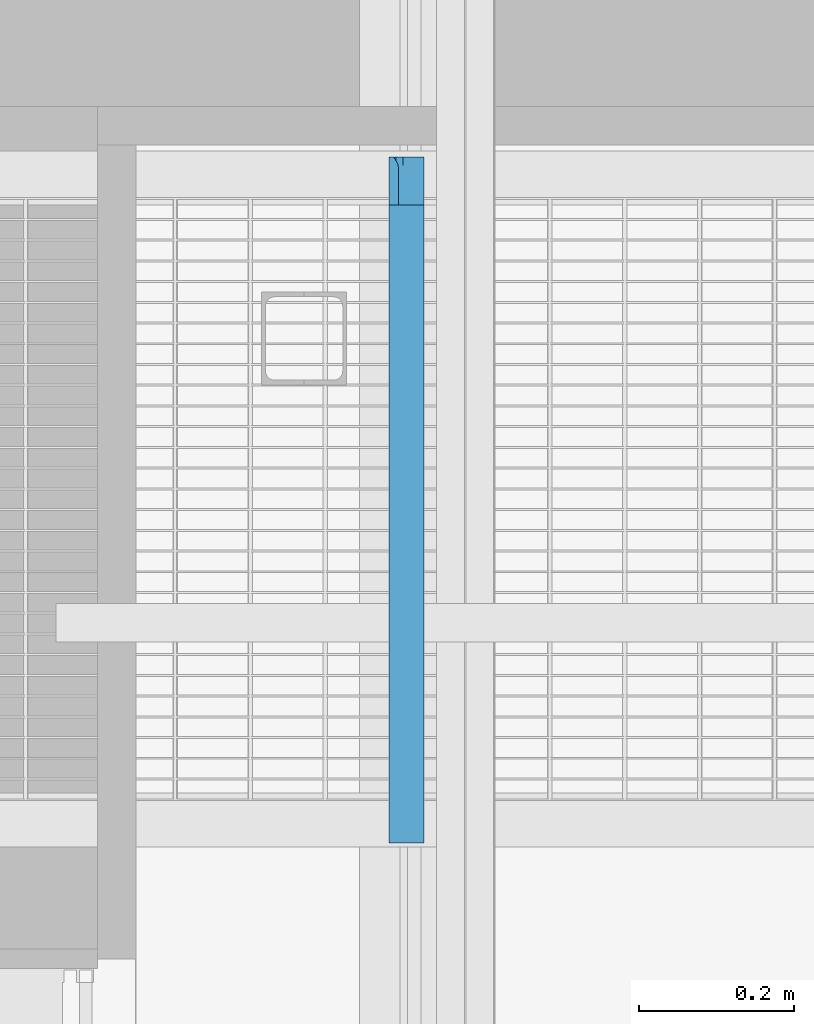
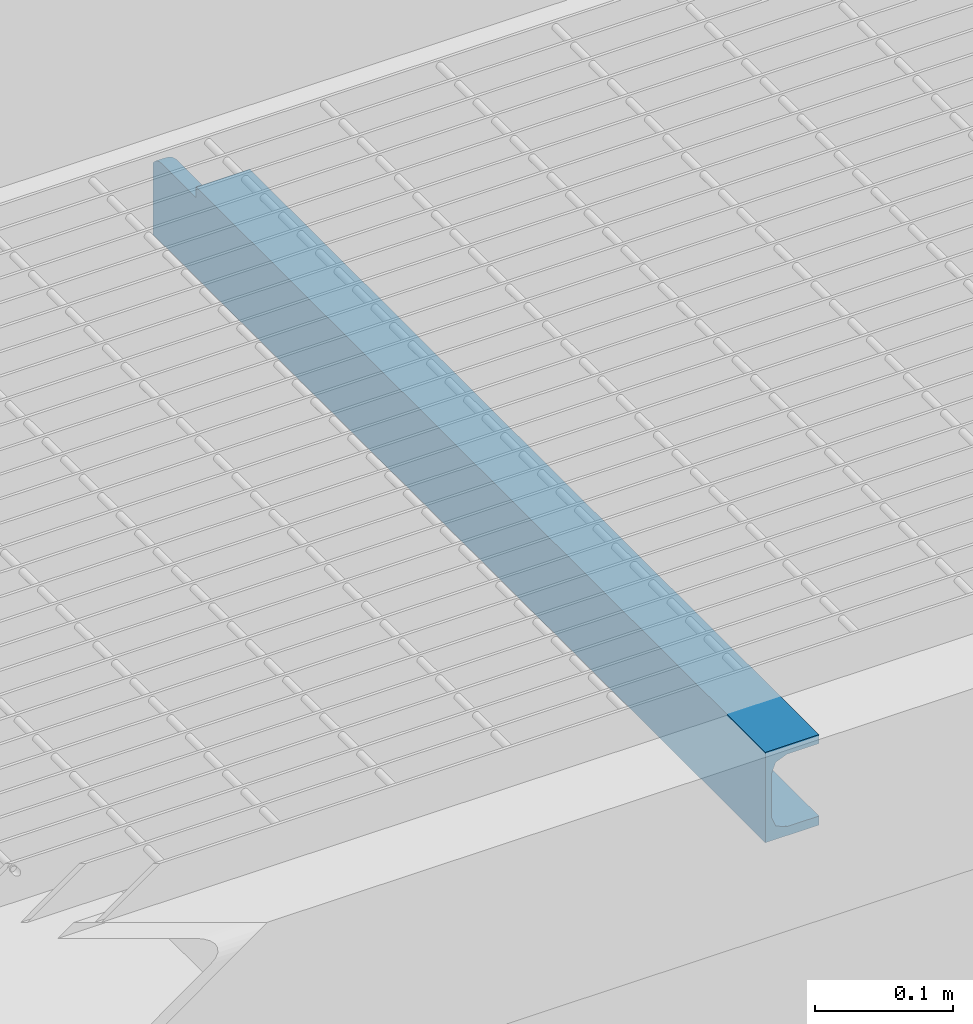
# One storey, part 46 of 75: 1 beam.
"""IFC2X3 building model written with IfcOpenShell, lengths in metres."""

from ifc_helpers import new_model, entity, si_unit, converted_unit, derived_unit, direction, frame, origin, place, context, subcontext, project, spatial, faceted_brep, material, type_object, element, save


model = new_model("IFC2X3")

# Units and contexts
model_context = context("Model", 3, precision=1e-05, world=origin(), true_north=direction((6.12303176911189e-17, 1.0)))
body_context = subcontext(model_context, "Body", "Model", "MODEL_VIEW")
ifc_project = project(units=[si_unit("LENGTHUNIT", "METRE"), si_unit("AREAUNIT", "SQUARE_METRE"), si_unit("VOLUMEUNIT", "CUBIC_METRE"), converted_unit("PLANEANGLEUNIT", "DEGREE", entity("IfcRatioMeasure", 0.0174532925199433), si_unit("PLANEANGLEUNIT", "RADIAN"), dimensions=[0, 0, 0, 0, 0, 0, 0]), si_unit("MASSUNIT", "GRAM", prefix="KILO"), derived_unit("MASSDENSITYUNIT", [(si_unit("MASSUNIT", "GRAM", prefix="KILO"), 1), (si_unit("LENGTHUNIT", "METRE"), -3)]), derived_unit("MOMENTOFINERTIAUNIT", [(si_unit("LENGTHUNIT", "METRE"), 4)]), si_unit("TIMEUNIT", "SECOND"), si_unit("FREQUENCYUNIT", "HERTZ"), si_unit("THERMODYNAMICTEMPERATUREUNIT", "DEGREE_CELSIUS"), derived_unit("THERMALTRANSMITTANCEUNIT", [(si_unit("MASSUNIT", "GRAM", prefix="KILO"), 1), (si_unit("THERMODYNAMICTEMPERATUREUNIT", "KELVIN"), -1), (si_unit("TIMEUNIT", "SECOND"), -3)]), derived_unit("VOLUMETRICFLOWRATEUNIT", [(si_unit("LENGTHUNIT", "METRE"), 3), (si_unit("TIMEUNIT", "SECOND"), -1)]), si_unit("ELECTRICCURRENTUNIT", "AMPERE"), si_unit("ELECTRICVOLTAGEUNIT", "VOLT"), si_unit("POWERUNIT", "WATT"), si_unit("FORCEUNIT", "NEWTON", prefix="KILO"), si_unit("ILLUMINANCEUNIT", "LUX"), si_unit("LUMINOUSFLUXUNIT", "LUMEN"), si_unit("LUMINOUSINTENSITYUNIT", "CANDELA"), derived_unit("USERDEFINED", [(si_unit("MASSUNIT", "GRAM", prefix="KILO"), -1), (si_unit("LENGTHUNIT", "METRE"), -2), (si_unit("TIMEUNIT", "SECOND"), 3), (si_unit("LUMINOUSFLUXUNIT", "LUMEN"), 1)]), derived_unit("LINEARVELOCITYUNIT", [(si_unit("LENGTHUNIT", "METRE"), 1), (si_unit("TIMEUNIT", "SECOND"), -1)]), si_unit("PRESSUREUNIT", "PASCAL"), derived_unit("USERDEFINED", [(si_unit("LENGTHUNIT", "METRE"), -2), (si_unit("MASSUNIT", "GRAM", prefix="KILO"), 1), (si_unit("TIMEUNIT", "SECOND"), -2)]), derived_unit("LINEARFORCEUNIT", [(si_unit("MASSUNIT", "GRAM", prefix="KILO"), 1), (si_unit("LENGTHUNIT", "METRE"), 1), (si_unit("TIMEUNIT", "SECOND"), -2), (si_unit("LENGTHUNIT", "METRE"), -1)]), derived_unit("PLANARFORCEUNIT", [(si_unit("MASSUNIT", "GRAM", prefix="KILO"), 1), (si_unit("LENGTHUNIT", "METRE"), 1), (si_unit("TIMEUNIT", "SECOND"), -2), (si_unit("LENGTHUNIT", "METRE"), -2)])], contexts=[model_context])

# Site, building, storey
site_placement = place(None, origin())
site = spatial("IfcSite", under=ifc_project, at=site_placement, Name="Superficie", CompositionType="ELEMENT")
building_placement = place(site_placement, origin())
building = spatial("IfcBuilding", under=site, at=building_placement, Name="Telegestiones", CompositionType="ELEMENT")
storey_placement = place(building_placement, origin())
storey = spatial("IfcBuildingStorey", under=building, at=storey_placement, Name="Nivel 0_NPT", CompositionType="ELEMENT", Elevation=0.0)

# Beam
ifc_material = material(Name="Metal - Acero - 345 MPa")
beam_type = type_object("IfcBeamType", Name="U-Canales de ala paralela:UAP80", PredefinedType="NOTDEFINED")
beam_placement = place(storey_placement, frame((6.41178977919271, 12.7911759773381, 17.78), z_axis=(0.0, 0.0, 1.0), x_axis=(0.0, -1.0, 0.0)))
element("IfcBeam", 1, at=beam_placement, inside=storey, type_object=beam_type, material=ifc_material, Name="U-Canales de ala paralela:UAP80", ObjectType="U-Canales de ala paralela:UAP80", context=body_context, shape_type="Brep", body=[
    faceted_brep([(0.0, 0.0450000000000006, 0.0), (0.0, 0.0450000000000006, 0.00799999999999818), (0.0, 0.0180000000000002, 0.00799999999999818), (0.0, 0.0140667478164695, 0.00962920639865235), (0.0, 0.0114371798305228, 0.0107184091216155), (0.0, 0.00880761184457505, 0.0118076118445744), (0.0, 0.00785570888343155, 0.014105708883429), (0.0, 0.00690380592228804, 0.0164038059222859), (0.0, 0.00595190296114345, 0.0187019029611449), (0.0, 0.00499999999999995, 0.0209999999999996), (0.0, 0.00499999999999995, 0.0555000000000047), (0.0, 0.00499999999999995, 0.0589999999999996), (0.0, 0.00662920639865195, 0.0629332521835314), (0.0, 0.00771840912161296, 0.0655628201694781), (0.0, 0.00880761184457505, 0.0681923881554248), (0.0, 0.0114371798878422, 0.0692815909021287), (0.0, 0.0140667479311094, 0.0703707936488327), (0.0, 0.0180000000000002, 0.0719999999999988), (0.0, 0.0450000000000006, 0.0719999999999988), (0.0, 0.0450000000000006, 0.0799999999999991), (0.0, 0.0, 0.0799999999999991), (0.0, 0.0, 0.0555000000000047), (0.0, 0.0, 0.0), (-0.887000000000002, 0.0180000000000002, 0.00799999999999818), (-0.887000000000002, 0.0450000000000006, 0.00799999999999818), (-0.887000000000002, 0.0450000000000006, 0.0), (-0.887000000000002, 0.0, 0.0), (-0.887000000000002, 0.0, 0.0636869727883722), (-0.887000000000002, 0.00587431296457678, 0.0636869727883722), (-0.887000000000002, 0.00524819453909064, 0.061528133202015), (-0.887000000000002, 0.00499999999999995, 0.0589999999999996), (-0.887000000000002, 0.00499999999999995, 0.0209999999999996), (-0.887000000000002, 0.00581460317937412, 0.0190333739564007), (-0.887000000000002, 0.00690380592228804, 0.0164038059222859), (-0.887000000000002, 0.00785570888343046, 0.014105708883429), (-0.887000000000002, 0.00880761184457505, 0.0118076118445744), (-0.887000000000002, 0.0111057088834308, 0.0108557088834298), (-0.887000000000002, 0.0134038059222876, 0.00990380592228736), (-0.887000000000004, 0.0157019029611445, 0.00895190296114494), (-0.0645312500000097, 0.0, 0.0799999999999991), (-0.0645312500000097, 0.0450000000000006, 0.0799999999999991), (-0.824931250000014, 0.0450000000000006, 0.0799999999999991), (-0.824931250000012, 0.0, 0.0799999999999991), (-0.0645312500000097, 0.0450000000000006, 0.0719999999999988), (-0.824931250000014, 0.0450000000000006, 0.0719999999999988), (-0.0645312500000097, 0.0180000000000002, 0.0719999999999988), (-0.192940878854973, 0.0180000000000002, 0.0719999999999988), (-0.321350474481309, 0.0180000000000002, 0.0719999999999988), (-0.447245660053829, 0.0180000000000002, 0.0719999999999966), (-0.5101932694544, 0.0180000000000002, 0.0719999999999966), (-0.573140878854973, 0.0180000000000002, 0.0719999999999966), (-0.699036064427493, 0.0180000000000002, 0.0719999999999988), (-0.761983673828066, 0.0180000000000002, 0.0719999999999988), (-0.824931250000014, 0.0180000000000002, 0.0719999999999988), (-0.479512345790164, 0.00636885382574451, 0.0648065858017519), (-0.543145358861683, 0.00725710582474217, 0.0663205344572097), (-0.425623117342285, 0.00746482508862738, 0.0666164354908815), (-0.192463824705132, 0.00699071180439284, 0.0659134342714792), (-0.0837067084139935, 0.00674978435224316, 0.0655140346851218), (-0.144060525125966, 0.0055087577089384, 0.0626012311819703), (-0.124159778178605, 0.00935724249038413, 0.0687109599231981), (-0.783815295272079, 0.00551450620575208, 0.0626211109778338), (-0.761104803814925, 0.00500000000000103, 0.0589999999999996), (-0.478719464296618, 0.0155013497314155, 0.0717576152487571), (-0.30621522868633, 0.00724023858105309, 0.0662957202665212), (-0.218561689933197, 0.00593779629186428, 0.0638480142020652), (-0.277783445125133, 0.00548411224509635, 0.0625146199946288), (-0.00044529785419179, 0.00499999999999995, 0.0589999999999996), (-0.507528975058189, 0.0130605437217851, 0.0710250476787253), (-0.638065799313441, 0.0103189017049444, 0.0694881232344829), (-0.584995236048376, 0.0142291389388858, 0.0714410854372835), (-0.748284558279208, 0.0066348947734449, 0.0653114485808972), (-0.670614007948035, 0.00553193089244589, 0.062680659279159), (-0.528827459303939, 0.00982895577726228, 0.0691110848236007), (-0.402538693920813, 0.0116313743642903, 0.0703331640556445), (-0.412608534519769, 0.00932801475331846, 0.0686848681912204), (-0.100272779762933, 0.0146443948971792, 0.071559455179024), (-0.884592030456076, 0.00740601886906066, 0.0665344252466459), (-0.881687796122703, 0.00926484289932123, 0.0686279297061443), (-0.794309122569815, 0.00820573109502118, 0.0675482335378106), (-0.815073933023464, 0.00990265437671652, 0.0691702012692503), (-0.114157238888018, 0.0118421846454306, 0.070449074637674), (-0.824829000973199, 0.00652556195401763, 0.0651104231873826), (-0.824931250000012, 0.0119378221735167, 0.0705000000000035), (-0.824931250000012, 0.0148775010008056, 0.0716194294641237), (-0.752090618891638, 0.0133736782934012, 0.0711489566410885), (-0.878331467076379, 0.0110465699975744, 0.0699840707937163), (-0.666241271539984, 0.0133736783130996, 0.0711489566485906), (-0.742436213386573, 0.0103479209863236, 0.0695093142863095), (-0.874431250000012, 0.0119378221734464, 0.0704999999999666), (-0.73050985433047, 0.0157137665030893, 0.0717973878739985), (-0.655023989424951, 0.0158751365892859, 0.0718251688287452), (-0.635209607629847, 0.00499999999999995, 0.0589999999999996), (-0.282764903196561, 0.0147287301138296, 0.0715816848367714), (-0.21132374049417, 0.0154946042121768, 0.0717562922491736), (-0.192940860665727, 0.0130831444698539, 0.0710343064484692), (-0.696715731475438, 0.00812615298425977, 0.0674561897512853), (-0.191932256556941, 0.00499999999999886, 0.0589999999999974), (-0.210300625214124, 0.00523827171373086, 0.0614775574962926), (-0.384298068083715, 0.0141896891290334, 0.0714290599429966), (-0.066483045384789, 0.00527361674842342, 0.061653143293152), (-0.193254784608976, 0.00859744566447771, 0.0679773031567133), (-0.66644382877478, 0.00662422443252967, 0.0652921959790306), (-0.617784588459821, 0.00784690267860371, 0.0671187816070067), (-0.572262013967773, 0.00529765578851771, 0.0617659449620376), (-0.50931441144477, 0.00499999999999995, 0.0589999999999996), (-0.287675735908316, 0.00499999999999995, 0.0589999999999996), (-0.474230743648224, 0.0053927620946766, 0.0621713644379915), (-0.549670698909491, 0.0060360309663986, 0.0640856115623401), (-0.399828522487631, 0.00612884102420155, 0.0642986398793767), (-0.396306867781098, 0.00528181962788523, 0.0616921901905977), (-0.333093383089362, 0.00894027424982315, 0.0683231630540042), (-0.320305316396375, 0.0117909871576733, 0.0704213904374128), (-0.0961887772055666, 0.00499999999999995, 0.0589999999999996), (-0.25671456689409, 0.00963193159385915, 0.068948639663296), (-0.186713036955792, 0.0106785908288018, 0.0697422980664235), (-0.249026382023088, 0.0117043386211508, 0.0703738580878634), (-0.383419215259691, 0.00499999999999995, 0.0589999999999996), (-0.125895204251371, 0.00499999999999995, 0.0209999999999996), (-0.251790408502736, 0.00499999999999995, 0.0209999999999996), (-0.347645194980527, 0.00499999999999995, 0.0209999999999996), (-0.44349998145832, 0.00499999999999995, 0.0209999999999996), (-0.554374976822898, 0.00499999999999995, 0.0209999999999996), (-0.665249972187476, 0.00499999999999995, 0.0209999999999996), (-0.761104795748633, 0.00499999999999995, 0.0209999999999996), (-0.0734619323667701, 0.00989600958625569, 0.0108350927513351), (-0.0788186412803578, 0.0126584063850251, 0.0091481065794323), (-0.299717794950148, 0.00537286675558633, 0.0179088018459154), (-0.637237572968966, 0.00532415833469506, 0.0181150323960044), (-0.713177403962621, 0.00576394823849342, 0.0166092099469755), (-0.444311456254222, 0.0123107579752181, 0.00931100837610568), (-0.315945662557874, 0.0113863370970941, 0.00980806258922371), (-0.335491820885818, 0.014732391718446, 0.00841736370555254), (-0.518650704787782, 0.0143274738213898, 0.00852953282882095), (-0.509314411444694, 0.0180000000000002, 0.00800000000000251), (-0.594527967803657, 0.0154908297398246, 0.00824444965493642), (-0.43889775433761, 0.00999407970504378, 0.0107576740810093), (-0.409636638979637, 0.00815277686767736, 0.0125128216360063), (-0.704157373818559, 0.0111320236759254, 0.00996229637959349), (-0.602762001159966, 0.0127505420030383, 0.00910701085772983), (-0.698157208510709, 0.0147601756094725, 0.00841018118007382), (-0.450193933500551, 0.00550211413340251, 0.0174218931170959), (-0.419728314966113, 0.00670067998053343, 0.0145715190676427), (-0.347645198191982, 0.00647007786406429, 0.0149949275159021), (-0.800011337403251, 0.0147677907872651, 0.0084082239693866), (-0.761104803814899, 0.0180000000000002, 0.00800000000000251), (-0.112149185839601, 0.00536096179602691, 0.017957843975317), (-0.201607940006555, 0.00532915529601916, 0.0180931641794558), (-0.0734515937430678, 0.0154674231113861, 0.00824907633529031), (-0.158802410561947, 0.0144776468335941, 0.00848628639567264), (-0.195273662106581, 0.00812471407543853, 0.0125454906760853), (-0.151425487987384, 0.00629995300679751, 0.0153335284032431), (-0.0937230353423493, 0.00786156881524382, 0.0128629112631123), (-0.300125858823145, 0.00845069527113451, 0.0121789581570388), (-0.248618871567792, 0.0134751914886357, 0.0088128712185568), (-0.249535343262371, 0.0063837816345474, 0.0151636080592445), (-0.287564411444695, 0.0180000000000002, 0.00800000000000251), (-0.383419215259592, 0.0180000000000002, 0.00800000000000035), (-0.125895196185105, 0.0180000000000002, 0.00800000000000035), (-0.191709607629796, 0.0180000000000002, 0.00799999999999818), (-0.232159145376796, 0.0108807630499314, 0.0101226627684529), (-0.146923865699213, 0.0110865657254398, 0.00999071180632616), (-0.271701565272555, 0.0156653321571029, 0.00821135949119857), (-0.425295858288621, 0.0152197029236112, 0.00830078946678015), (-0.526087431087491, 0.0116362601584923, 0.00966409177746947), (-0.697294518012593, 0.00813782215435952, 0.0125302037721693), (-0.612759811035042, 0.00967715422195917, 0.0110134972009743), (-0.635209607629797, 0.0180000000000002, 0.00800000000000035), (-0.554375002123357, 0.00560357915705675, 0.0170848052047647), (-0.492870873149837, 0.00680969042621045, 0.0143835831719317), (-0.800231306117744, 0.0116351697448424, 0.00966470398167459), (-0.795198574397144, 0.00701450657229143, 0.0140488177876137), (-0.764347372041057, 0.00943661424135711, 0.0112189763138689), (-0.803520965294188, 0.00550758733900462, 0.017402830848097), (-0.596627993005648, 0.0071362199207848, 0.0138600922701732), (-0.643905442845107, 0.00615345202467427, 0.0156465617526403), (-0.701431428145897, 0.00675652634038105, 0.0144743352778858), (-0.509314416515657, 0.00905086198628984, 0.0115706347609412), (-0.377241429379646, 0.00524948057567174, 0.0184653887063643), (-0.0760148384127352, 0.00611015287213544, 0.0157434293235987), (-0.824931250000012, 0.0, 0.0705000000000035), (-0.874431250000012, 0.0, 0.0705000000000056), (-0.878118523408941, 0.0, 0.0700397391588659), (-0.881579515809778, 0.0, 0.0686872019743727), (-0.884601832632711, 0.0, 0.066525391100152)], [[[0, 1, 2, 3, 4, 5, 6, 7, 8, 9, 10, 11, 12, 13, 14, 15, 16, 17, 18, 19, 20, 21, 22]], [[23, 24, 25, 26, 27, 28, 29, 30, 31, 32, 33, 34, 35, 36, 37, 38]], [[39, 20, 19, 40, 41, 42]], [[40, 19, 18, 43, 44, 41]], [[24, 1, 0, 25]], [[43, 18, 17, 45, 46, 47, 48, 49, 50, 51, 52, 53, 44]], [[54, 55, 56]], [[57, 58, 59]], [[60, 58, 57]], [[29, 61, 62]], [[49, 48, 63, 50]], [[64, 65, 66]], [[45, 17, 16]], [[29, 28, 61]], [[12, 11, 67]], [[68, 69, 70]], [[71, 72, 61]], [[73, 74, 75]], [[45, 16, 76]], [[77, 78, 79]], [[79, 78, 80]], [[15, 81, 16]], [[82, 71, 61]], [[83, 84, 85]], [[62, 30, 29]], [[78, 86, 80]], [[87, 69, 88]], [[89, 83, 86]], [[90, 51, 91]], [[80, 83, 88]], [[92, 62, 72]], [[93, 94, 95]], [[79, 96, 71]], [[51, 90, 52]], [[97, 98, 59]], [[47, 93, 99]], [[12, 67, 100]], [[60, 57, 101]], [[101, 57, 64]], [[82, 28, 77]], [[88, 96, 79]], [[96, 88, 69]], [[53, 52, 84]], [[87, 88, 85]], [[102, 96, 103]], [[68, 73, 69]], [[72, 71, 102]], [[90, 91, 87]], [[47, 99, 48]], [[91, 50, 70]], [[104, 105, 92]], [[98, 106, 66]], [[83, 85, 88]], [[85, 84, 90]], [[77, 79, 82]], [[72, 62, 61]], [[54, 107, 108]], [[96, 102, 71]], [[109, 110, 107]], [[72, 104, 92]], [[52, 90, 84]], [[85, 90, 87]], [[87, 91, 70]], [[91, 51, 50]], [[87, 70, 69]], [[75, 74, 111]], [[68, 70, 63]], [[111, 74, 112]], [[48, 99, 63]], [[50, 63, 70]], [[68, 63, 99]], [[59, 100, 113]], [[97, 59, 113]], [[58, 100, 59]], [[65, 98, 66]], [[110, 109, 66]], [[13, 12, 58, 14]], [[14, 58, 60]], [[81, 76, 16]], [[101, 114, 115]], [[116, 112, 93]], [[111, 64, 56]], [[104, 72, 108]], [[103, 108, 102]], [[55, 103, 73]], [[103, 96, 69]], [[105, 104, 107]], [[72, 102, 108]], [[105, 107, 117]], [[109, 107, 54]], [[114, 64, 111]], [[109, 64, 66]], [[28, 82, 61]], [[71, 82, 79]], [[109, 54, 56]], [[55, 54, 108]], [[109, 56, 64]], [[73, 75, 56]], [[103, 55, 108]], [[104, 108, 107]], [[99, 93, 112]], [[74, 99, 112]], [[94, 46, 76]], [[94, 93, 47]], [[116, 115, 114]], [[74, 68, 99]], [[68, 74, 73]], [[110, 117, 107]], [[60, 101, 115]], [[45, 76, 46]], [[15, 14, 60]], [[95, 76, 81]], [[95, 81, 115]], [[60, 81, 15]], [[79, 80, 88]], [[83, 80, 86]], [[69, 73, 103]], [[56, 55, 73]], [[113, 100, 67]], [[12, 100, 58]], [[57, 59, 65]], [[66, 106, 110]], [[98, 65, 59]], [[57, 65, 64]], [[117, 110, 106]], [[106, 98, 97]], [[114, 101, 64]], [[60, 115, 81]], [[116, 95, 115]], [[95, 116, 93]], [[112, 116, 114]], [[114, 111, 112]], [[75, 111, 56]], [[95, 94, 76]], [[46, 94, 47]], [[67, 11, 10, 9, 118, 119, 120, 121, 122, 123, 124, 31, 30, 62, 92, 105, 117, 106, 97, 113]], [[125, 4, 126]], [[119, 127, 120]], [[128, 129, 123]], [[130, 131, 132]], [[133, 134, 135]], [[136, 137, 131]], [[138, 139, 140]], [[121, 141, 122]], [[137, 142, 143]], [[23, 144, 145]], [[9, 146, 118]], [[119, 147, 127]], [[148, 149, 126]], [[150, 151, 152]], [[137, 143, 153]], [[146, 147, 118]], [[154, 132, 131]], [[151, 150, 155]], [[148, 3, 2]], [[156, 157, 132]], [[158, 149, 148]], [[149, 158, 159]], [[154, 160, 161]], [[159, 162, 149]], [[149, 162, 154]], [[163, 133, 130]], [[133, 139, 164]], [[132, 163, 130]], [[157, 163, 132]], [[165, 166, 138]], [[145, 140, 167]], [[168, 141, 169]], [[123, 129, 124]], [[144, 37, 170]], [[135, 167, 140]], [[171, 172, 35]], [[124, 173, 32]], [[33, 173, 171]], [[32, 173, 33]], [[174, 166, 165]], [[175, 174, 176]], [[169, 174, 168]], [[138, 166, 139]], [[140, 145, 144]], [[170, 172, 138]], [[140, 144, 170]], [[139, 166, 164]], [[174, 169, 177]], [[166, 174, 177]], [[175, 128, 168]], [[177, 169, 137]], [[168, 122, 141]], [[177, 137, 136]], [[131, 137, 153]], [[160, 154, 131]], [[150, 153, 155]], [[169, 141, 142]], [[141, 121, 178]], [[127, 143, 178]], [[120, 127, 178]], [[151, 155, 147]], [[155, 153, 143]], [[155, 143, 127]], [[131, 153, 160]], [[179, 6, 152]], [[5, 125, 152]], [[150, 152, 161]], [[119, 118, 147]], [[179, 8, 7, 6]], [[127, 147, 155]], [[146, 151, 147]], [[146, 179, 151]], [[138, 140, 170]], [[23, 38, 37, 144]], [[165, 138, 172]], [[170, 36, 172]], [[132, 154, 162]], [[149, 154, 161]], [[160, 150, 161]], [[150, 160, 153]], [[165, 172, 171]], [[162, 156, 132]], [[176, 165, 171]], [[34, 33, 171, 35]], [[133, 164, 130]], [[163, 157, 134]], [[139, 133, 135]], [[133, 163, 134]], [[130, 164, 136]], [[177, 164, 166]], [[151, 179, 152]], [[146, 9, 8]], [[139, 135, 140]], [[167, 135, 134]], [[158, 148, 2]], [[3, 148, 126]], [[125, 5, 4]], [[161, 126, 149]], [[4, 3, 126]], [[125, 161, 152]], [[161, 125, 126]], [[32, 31, 124]], [[173, 129, 171]], [[129, 173, 124]], [[129, 128, 175]], [[123, 122, 128]], [[168, 128, 122]], [[129, 175, 176]], [[174, 175, 168]], [[129, 176, 171]], [[165, 176, 174]], [[178, 143, 142]], [[142, 137, 169]], [[177, 136, 164]], [[130, 136, 131]], [[120, 178, 121]], [[142, 141, 178]], [[6, 5, 152]], [[146, 8, 179]], [[35, 172, 36]], [[170, 37, 36]], [[156, 162, 159]], [[1, 24, 23, 145, 167, 134, 157, 156, 159, 158, 2]], [[25, 0, 22, 26]], [[180, 181, 182, 183, 184, 27, 26, 22, 21, 20, 39, 42]], [[27, 184, 28]], [[77, 28, 184]], [[183, 78, 77]], [[77, 184, 183]], [[182, 86, 78]], [[86, 181, 89]], [[181, 86, 182]], [[182, 78, 183]], [[83, 89, 181, 180]], [[83, 180, 42, 41, 44, 53, 84]]]),
])

save(model, "model.ifc")
